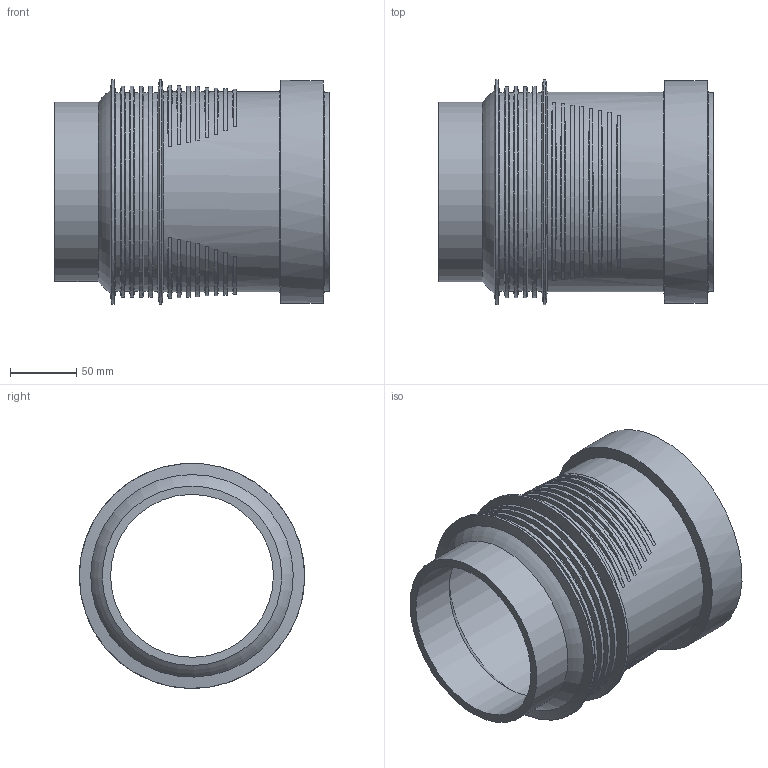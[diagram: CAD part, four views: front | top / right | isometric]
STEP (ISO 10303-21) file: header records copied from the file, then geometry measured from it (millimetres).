
FILE_DESCRIPTION(/* description */ (''),/* implementation_level */ '2;1');
FILE_NAME(/* name */ 'H:\Geberit-Teile\Export\Fertig zum Export\Langmuffen m. Doppelbund\stp\312012.stp',/* time_stamp */ '2017-07-17T11:57:37+02:00',/* author */ ('seihe2'),/* organization */ (''),/* preprocessor_version */ 'ST-DEVELOPER v15.2',/* originating_system */ 'Autodesk Inventor 2014',/* authorisation */ '');
FILE_SCHEMA (('AUTOMOTIVE_DESIGN { 1 0 10303 214 3 1 1 }'));
Length unit declared in the file: millimetre
Products named in the file (1): 312012
Bounding box: 207.5 x 170 x 169.76 mm (x, y, z)
Volume: 694676.7 mm3; surface area: 256800.9 mm2
Topology: 1 solids, 1 shells, 123 faces, 369 edges, 255 vertices
Faces by surface type: cone 76, cylinder 36, bspline 5, torus 3, plane 3
Full cylindrical faces by diameter (mm): 8 x1, 122.95 x1, 135.45 x1, 138.45 x1, 139.1 x1, 150 x4, 150.15 x1, 150.95 x1, 157.2 x1, 159.45 x4, 168.25 x1, 170 x2
Entity records: 5196 total; most frequent: CARTESIAN_POINT 2172, ORIENTED_EDGE 602, DIRECTION 541, EDGE_CURVE 301, AXIS2_PLACEMENT_3D 236, VERTEX_POINT 225, EDGE_LOOP 170, STYLED_ITEM 124
